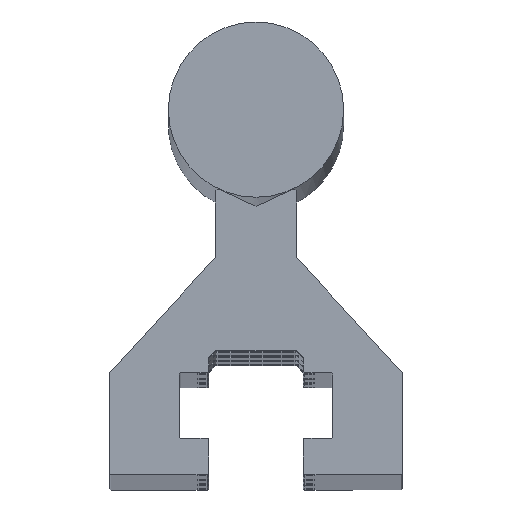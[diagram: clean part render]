
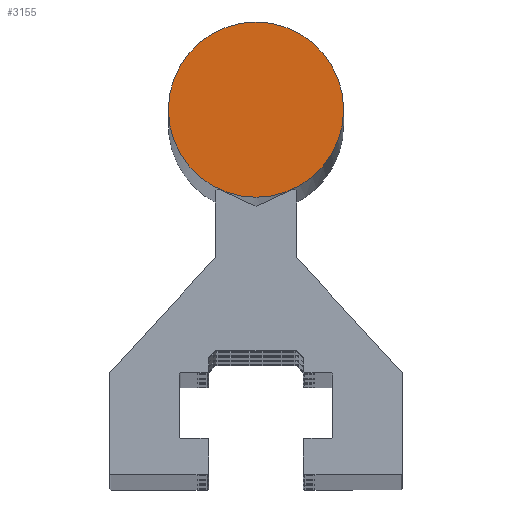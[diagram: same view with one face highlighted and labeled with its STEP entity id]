
A CAD part, top view. The second image highlights one B-rep face of the part: STEP entity #3155.
In plain terms, the highlighted planar face has unit normal (0, 0, 1).
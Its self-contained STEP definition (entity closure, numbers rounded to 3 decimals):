
#96 = VERTEX_POINT ( 'NONE', #802 ) ;
#802 = CARTESIAN_POINT ( 'NONE',  ( 6., 25., 1. ) ) ;
#3155 = ADVANCED_FACE ( 'NONE', ( #7059 ), #7194, .T. ) ;
#6879 = DIRECTION ( 'NONE',  ( 1., 0., 0. ) ) ;
#6892 = DIRECTION ( 'NONE',  ( 1., 0., 0. ) ) ;
#6936 = DIRECTION ( 'NONE',  ( 0., 0., 1. ) ) ;
#6939 = CARTESIAN_POINT ( 'NONE',  ( 0., 25., 1. ) ) ;
#6979 = DIRECTION ( 'NONE',  ( 0., 0., 1. ) ) ;
#7059 = FACE_OUTER_BOUND ( 'NONE', #12743, .T. ) ;
#7194 = PLANE ( 'NONE',  #13442 ) ;
#7295 = CARTESIAN_POINT ( 'NONE',  ( 0., 25., 1. ) ) ;
#7687 = CIRCLE ( 'NONE', #13762, 6. ) ;
#9901 = EDGE_CURVE ( 'NONE', #96, #96, #7687, .T. ) ;
#10563 = ORIENTED_EDGE ( 'NONE', *, *, #9901, .T. ) ;
#12743 = EDGE_LOOP ( 'NONE', ( #10563 ) ) ;
#13442 = AXIS2_PLACEMENT_3D ( 'NONE', #7295, #6979, #6879 ) ;
#13762 = AXIS2_PLACEMENT_3D ( 'NONE', #6939, #6936, #6892 ) ;
